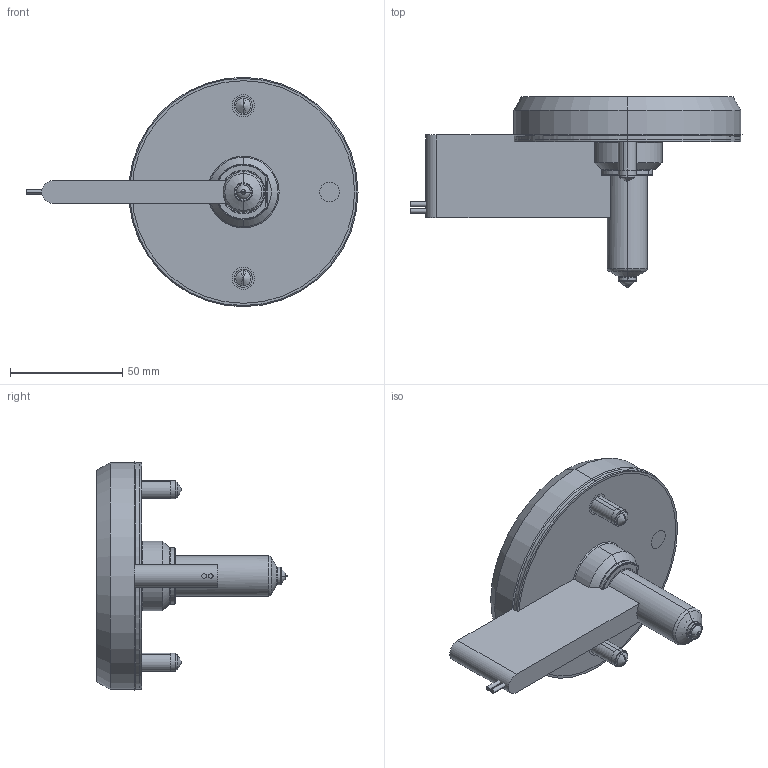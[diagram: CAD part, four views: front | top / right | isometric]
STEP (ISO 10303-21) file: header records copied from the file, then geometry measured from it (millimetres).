
FILE_DESCRIPTION (( 'STEP AP214' ), '1' );
FILE_NAME ('SOHSB4050-SOPGA04.STEP', '2024-11-28T12:58:13', ( '' ), ( '' ), 'SwSTEP 2.0', 'SolidWorks 2022', '' );
FILE_SCHEMA (( 'AUTOMOTIVE_DESIGN' ));
Length unit declared in the file: millimetre
Products named in the file (11): EcoONE-HSB04-04003(A)_SOHSBNB4050; EcoONE-HSB04-04005(A)_SOTC10200-J; EcoONE-HSB04-Open Gate Bodiless Retainer Tip_SOBRT0401; EcoONE-HSB04-00002(A)_SOHSBLR04; SOHSB4050-SOPGA04; EcoONE-HSB04-04006(A)_SONHC04; EcoONE-HSB04-04004(A)_SONH10047; EcoONE-HSBPoint Gate Needle Tip-Standard_SOPGN0401; EcoONE-HSB-04-Open Gate Cut-out Details_Point Gate; socket head cap screw_iso_ISO 4762 M8 x 25 - 25N; EcoONE-HSB04-Point Gate standard Tip Assembly_SOPGA04
Assembly tree (12 placements, depth 3):
  SOHSB4050-SOPGA04
    EcoONE-HSB04-04003(A)_SOHSBNB4050
    EcoONE-HSB04-04004(A)_SONH10047
    EcoONE-HSB04-04005(A)_SOTC10200-J
    EcoONE-HSB04-04006(A)_SONHC04  x2
    EcoONE-HSB04-00002(A)_SOHSBLR04
    socket head cap screw_iso_ISO 4762 M8 x 25 - 25N  x2
    EcoONE-HSB04-Point Gate standard Tip Assembly_SOPGA04
      EcoONE-HSB04-Open Gate Bodiless Retainer Tip_SOBRT0401
      EcoONE-HSBPoint Gate Needle Tip-Standard_SOPGN0401
    EcoONE-HSB-04-Open Gate Cut-out Details_Point Gate
Bounding box: 148.2 x 85 x 102.4 mm (x, y, z)
Volume: 218650.7 mm3; surface area: 66483.6 mm2
Topology: 11 solids, 11 shells, 519 faces, 1291 edges, 808 vertices
Faces by surface type: cylinder 157, plane 138, bspline 97, cone 87, torus 32, sphere 8
Entity records: 25943 total; most frequent: CARTESIAN_POINT 14377, ORIENTED_EDGE 2366, DIRECTION 2038, EDGE_CURVE 1183, AXIS2_PLACEMENT_3D 825, VERTEX_POINT 747, EDGE_LOOP 516, FACE_OUTER_BOUND 476
